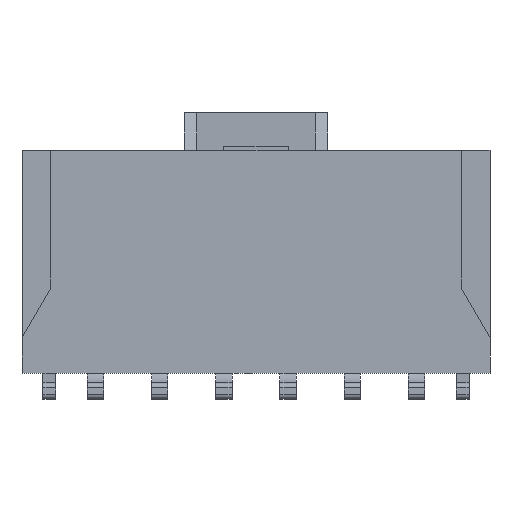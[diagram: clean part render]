
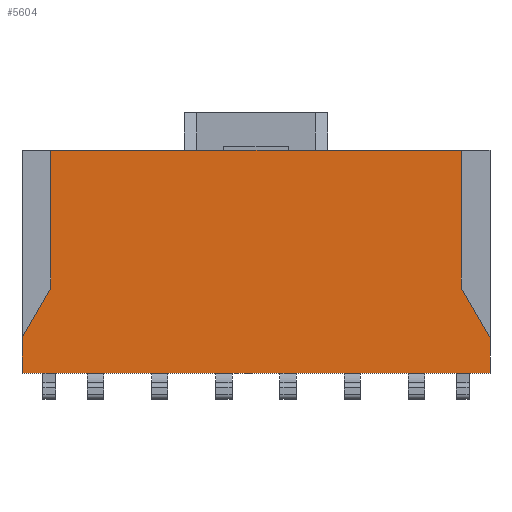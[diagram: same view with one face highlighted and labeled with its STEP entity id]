
A CAD part, front view. The second image highlights one B-rep face of the part: STEP entity #5604.
In plain terms, the highlighted planar face has unit normal (0, -1, 0).
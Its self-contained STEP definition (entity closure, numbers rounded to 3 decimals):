
#1=DIRECTION('',(-0.5,0.,-0.866));
#2=VECTOR('',#1,2.23);
#3=CARTESIAN_POINT('',(-8.,-2.99,3.321));
#4=LINE('',#3,#2);
#5=DIRECTION('',(0.,0.,-1.));
#6=VECTOR('',#5,5.369);
#7=CARTESIAN_POINT('',(-8.,-2.99,8.69));
#8=LINE('',#7,#6);
#9=DIRECTION('',(1.,0.,0.));
#10=VECTOR('',#9,16.);
#11=CARTESIAN_POINT('',(-8.,-2.99,8.69));
#12=LINE('',#11,#10);
#13=DIRECTION('',(0.,0.,-1.));
#14=VECTOR('',#13,5.369);
#15=CARTESIAN_POINT('',(8.,-2.99,8.69));
#16=LINE('',#15,#14);
#17=DIRECTION('',(-0.5,0.,0.866));
#18=VECTOR('',#17,2.23);
#19=CARTESIAN_POINT('',(9.115,-2.99,1.39));
#20=LINE('',#19,#18);
#21=DIRECTION('',(0.,0.,-1.));
#22=VECTOR('',#21,1.39);
#23=CARTESIAN_POINT('',(9.115,-2.99,1.39));
#24=LINE('',#23,#22);
#25=DIRECTION('',(-1.,0.,0.));
#26=VECTOR('',#25,18.23);
#27=CARTESIAN_POINT('',(9.115,-2.99,0.));
#28=LINE('',#27,#26);
#29=DIRECTION('',(0.,0.,1.));
#30=VECTOR('',#29,1.39);
#31=CARTESIAN_POINT('',(-9.115,-2.99,0.));
#32=LINE('',#31,#30);
#4253=CARTESIAN_POINT('',(9.115,-2.99,0.));
#4254=CARTESIAN_POINT('',(-9.115,-2.99,0.));
#4255=VERTEX_POINT('',#4253);
#4256=VERTEX_POINT('',#4254);
#4429=CARTESIAN_POINT('',(-8.,-2.99,3.321));
#4430=VERTEX_POINT('',#4429);
#4431=CARTESIAN_POINT('',(8.,-2.99,3.321));
#4432=VERTEX_POINT('',#4431);
#4433=CARTESIAN_POINT('',(-9.115,-2.99,1.39));
#4434=VERTEX_POINT('',#4433);
#4435=CARTESIAN_POINT('',(-8.,-2.99,8.69));
#4436=VERTEX_POINT('',#4435);
#4437=CARTESIAN_POINT('',(9.115,-2.99,1.39));
#4438=VERTEX_POINT('',#4437);
#4439=CARTESIAN_POINT('',(8.,-2.99,8.69));
#4440=VERTEX_POINT('',#4439);
#5581=CARTESIAN_POINT('',(0.,-2.99,0.));
#5582=DIRECTION('',(0.,1.,0.));
#5583=DIRECTION('',(-1.,0.,0.));
#5584=AXIS2_PLACEMENT_3D('',#5581,#5582,#5583);
#5585=PLANE('',#5584);
#5587=ORIENTED_EDGE('',*,*,#5586,.F.);
#5589=ORIENTED_EDGE('',*,*,#5588,.F.);
#5591=ORIENTED_EDGE('',*,*,#5590,.T.);
#5593=ORIENTED_EDGE('',*,*,#5592,.T.);
#5595=ORIENTED_EDGE('',*,*,#5594,.F.);
#5597=ORIENTED_EDGE('',*,*,#5596,.T.);
#5599=ORIENTED_EDGE('',*,*,#5598,.T.);
#5601=ORIENTED_EDGE('',*,*,#5600,.T.);
#5602=EDGE_LOOP('',(#5587,#5589,#5591,#5593,#5595,#5597,#5599,#5601));
#5603=FACE_OUTER_BOUND('',#5602,.F.);
#5604=ADVANCED_FACE('',(#5603),#5585,.F.);
#5586=EDGE_CURVE('',#4430,#4434,#4,.T.);
#5588=EDGE_CURVE('',#4436,#4430,#8,.T.);
#5590=EDGE_CURVE('',#4436,#4440,#12,.T.);
#5592=EDGE_CURVE('',#4440,#4432,#16,.T.);
#5594=EDGE_CURVE('',#4438,#4432,#20,.T.);
#5596=EDGE_CURVE('',#4438,#4255,#24,.T.);
#5598=EDGE_CURVE('',#4255,#4256,#28,.T.);
#5600=EDGE_CURVE('',#4256,#4434,#32,.T.);
